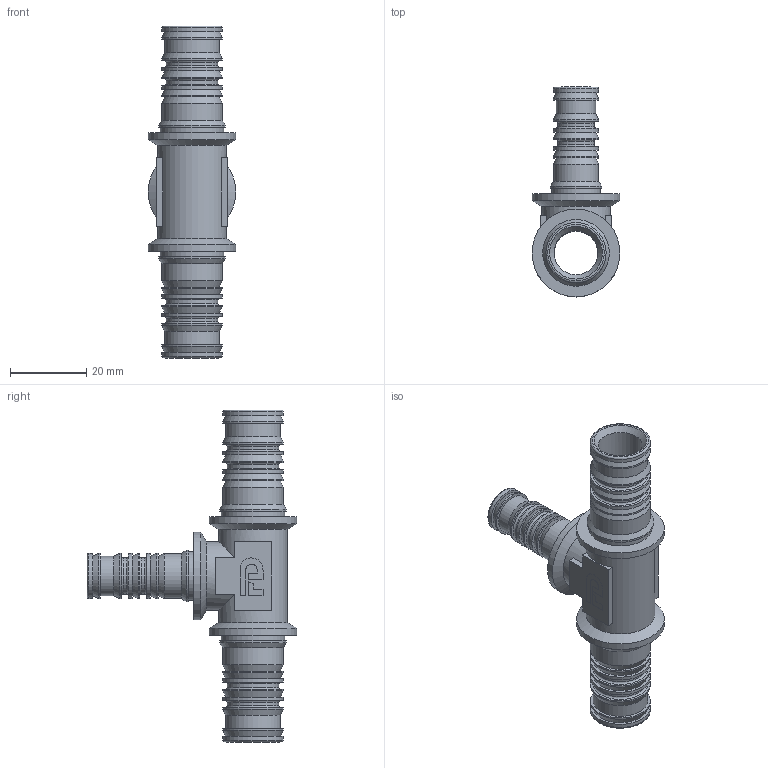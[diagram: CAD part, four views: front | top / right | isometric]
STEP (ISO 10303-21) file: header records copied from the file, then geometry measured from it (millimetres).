
FILE_DESCRIPTION(/* description */ (''),/* implementation_level */ '2;1');
FILE_NAME(/* name */ 'C:\Users\Doom\Desktop\Фадотех\Пресс\HDT04-20X20X16 21.08.2020\HDT04-20X20X16 21.08.2020_1.stp',/* time_stamp */ '2022-08-12T15:19:10+03:00',/* author */ ('Doom'),/* organization */ (''),/* preprocessor_version */ 'ST-DEVELOPER v18',/* originating_system */ 'Autodesk Inventor 2020',/* authorisation */ '');
FILE_SCHEMA (('AUTOMOTIVE_DESIGN { 1 0 10303 214 3 1 1 }'));
Length unit declared in the file: millimetre
Products named in the file (1): HDT04-20X20X16 21.08.2020
Bounding box: 23 x 55 x 87 mm (x, y, z)
Volume: 13574.5 mm3; surface area: 12210.3 mm2
Topology: 1 solids, 1 shells, 179 faces, 496 edges, 357 vertices
Faces by surface type: plane 86, cylinder 46, cone 24, torus 15, bspline 8
Full cylindrical faces by diameter (mm): 7.5 x1, 9.5 x2, 10.3 x1, 11.5 x1, 11.8 x8, 12.6 x1, 13.5 x5, 14.3 x2, 15.8 x16, 16.6 x2, 17.5 x2, 18 x2, 23 x3
Entity records: 6103 total; most frequent: CARTESIAN_POINT 1171, DIRECTION 1096, ORIENTED_EDGE 992, EDGE_CURVE 496, AXIS2_PLACEMENT_3D 446, VERTEX_POINT 357, CIRCLE 271, EDGE_LOOP 221
